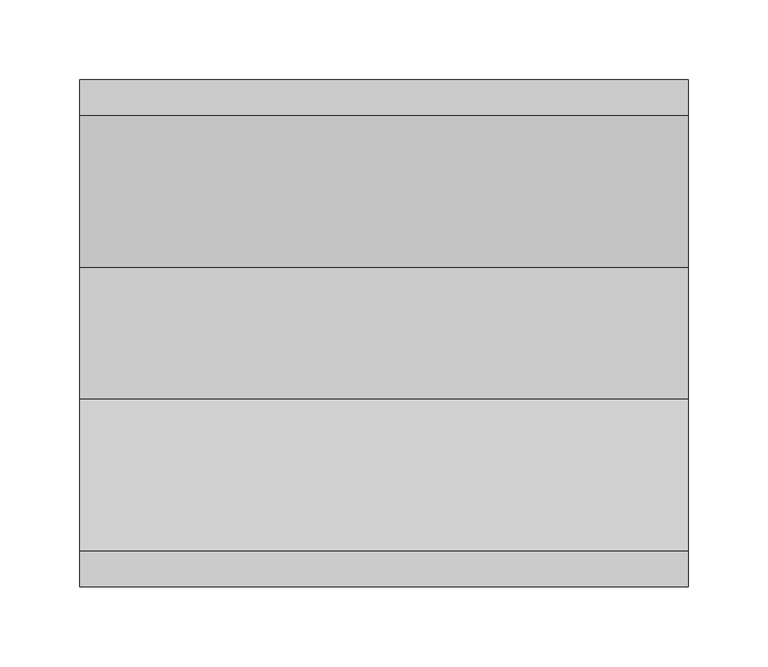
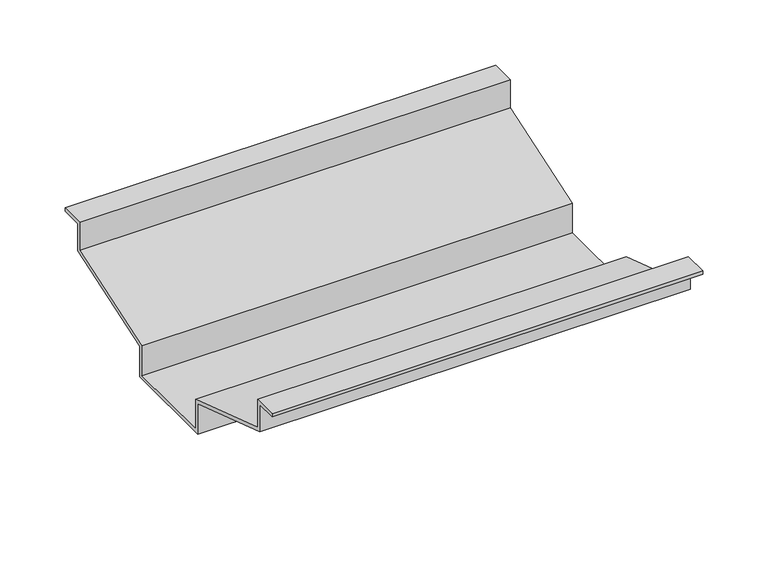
"""IFC4 building model written with IfcOpenShell, lengths in millimetres: furniture geometry."""

from ifc_helpers import new_model, si_unit, frame, origin, place, context, project, spatial, polyline, outline, extrude, source, transform, mapped, element, save


def furniture_8828cb60(model_context):
    return source(origin(), model_context, "Body", "SweptSolid", [
        extrude(outline(polyline([(-123.825, 1054.1), (-123.825, 1027.8134105), (-28.575, 996.0634105), (-28.575, 968.375), (53.975, 968.375), (53.975, 996.0634105), (149.225, 1027.8134105), (149.225, 1054.1), (171.45, 1054.1), (171.45, 1050.925), (152.4, 1050.925), (152.4, 1025.525), (57.15, 993.775), (57.15, 965.2), (-31.75, 965.2), (-31.75, 993.775), (-127.0, 1025.525), (-127.0, 1050.925), (-146.05, 1050.925), (-146.05, 1054.1), (-123.825, 1054.1)])), frame((-190.5, 0.0, 0.0), z_axis=(1.0, 0.0, 0.0), x_axis=(0.0, 1.0, 0.0)), (0.0, 0.0, 1.0), 381.0),
    ])


if __name__ == "__main__":
    model = new_model("IFC4")
    model_context = context("Model", 3, world=origin())
    ifc_project = project(units=[si_unit("LENGTHUNIT", "METRE", prefix="MILLI")], contexts=[model_context])
    site = spatial("IfcSite", under=ifc_project)
    building = spatial("IfcBuilding", under=site)
    placement = place(None, origin())
    furniture_shape = furniture_8828cb60(model_context)
    element("IfcFurniture", 1, ObjectType="HermanMiller_Ethospace_E2827_CounterTopSupport : 24\"W W/Light", at=placement, inside=building, context=model_context, shape_type="MappedRepresentation", body=[
        mapped(furniture_shape, transform((0.0, 0.0, 0.0), x_axis=(1.0, 0.0, 0.0), y_axis=(0.0, 1.0, 0.0), z_axis=(0.0, 0.0, 1.0))),
    ])
    save(model, "model.ifc")
